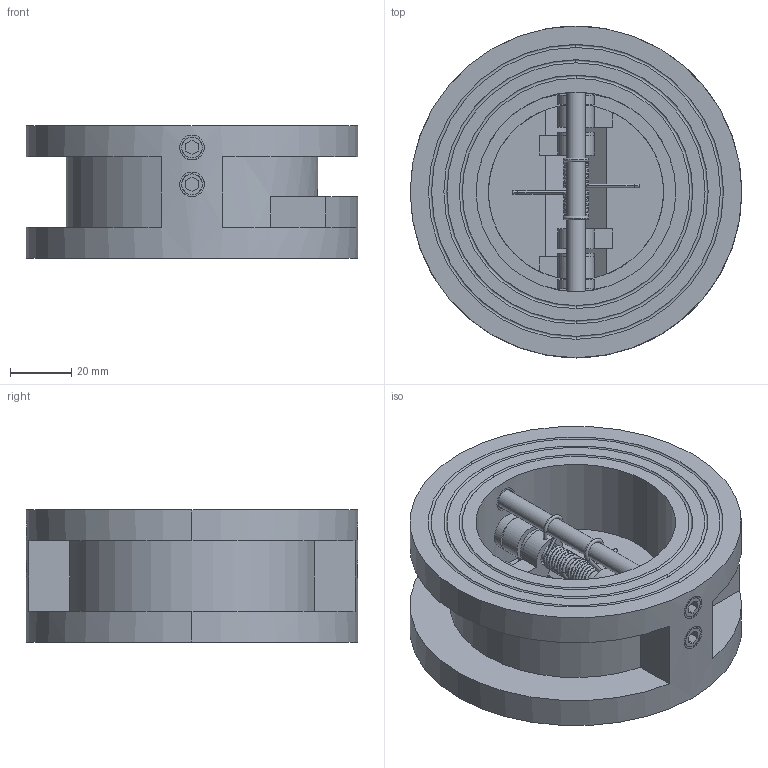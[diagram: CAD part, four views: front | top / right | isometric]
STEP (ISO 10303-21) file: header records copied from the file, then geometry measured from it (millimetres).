
FILE_DESCRIPTION((''),'2;1');
FILE_NAME('CV-16WS_SB_ASM','2026-03-23T',('user'),(''),'PRO/ENGINEER BY PARAMETRIC TECHNOLOGY CORPORATION, 2011220','PRO/ENGINEER BY PARAMETRIC TECHNOLOGY CORPORATION, 2011220','');
FILE_SCHEMA(('CONFIG_CONTROL_DESIGN'));
Length unit declared in the file: millimetre
Products named in the file (10): CV-16WS_KORPUS; CV-16WS_DET_2; CV-16WS_DET_3; CV-16WS_DET_4_SHTOK; CV-16WS_DET_5; CV-16WS_DET_6; CV-16WS_DET_7; CV-16WS_DET_8; CV-16WS_DET_9; CV-16WS_SB_ASM
Assembly tree (21 placements, depth 2):
  CV-16WS_SB_ASM
    CV-16WS_KORPUS
    CV-16WS_DET_2  x2
    CV-16WS_DET_3  x2
    CV-16WS_DET_4_SHTOK  x2
    CV-16WS_DET_5  x2
    CV-16WS_DET_6  x2
    CV-16WS_DET_7  x4
    CV-16WS_DET_8  x4
    CV-16WS_DET_9  x2
Bounding box: 108 x 108 x 43 mm (x, y, z)
Volume: 226503.6 mm3; surface area: 72583.4 mm2
Topology: 21 solids, 29 shells, 305 faces, 706 edges, 462 vertices
Faces by surface type: plane 145, cylinder 118, torus 24, bspline 8, cone 6, revolution 4
Entity records: 9710 total; most frequent: CARTESIAN_POINT 5082, DIRECTION 981, ORIENTED_EDGE 840, EDGE_CURVE 434, AXIS2_PLACEMENT_3D 393, VERTEX_POINT 285, EDGE_LOOP 221, VECTOR 193
